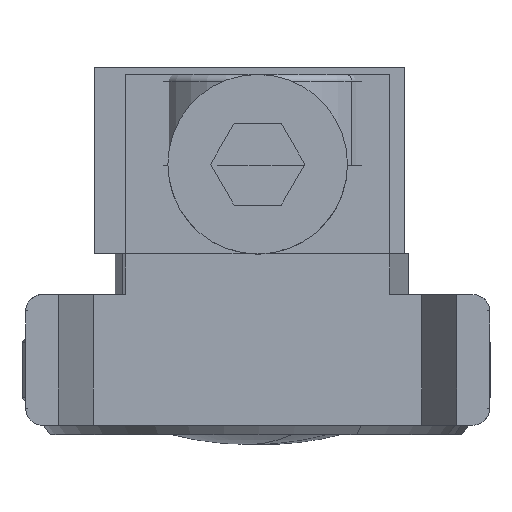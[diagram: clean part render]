
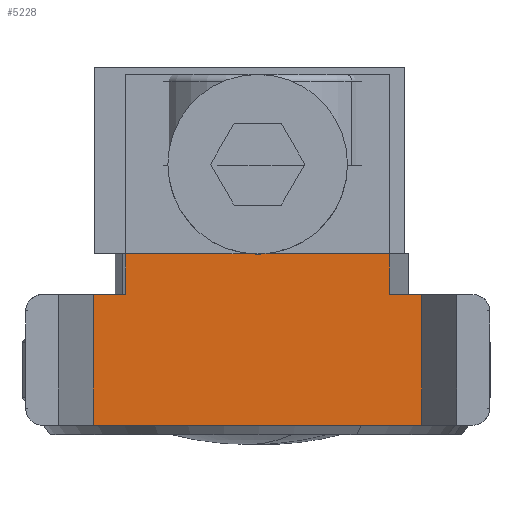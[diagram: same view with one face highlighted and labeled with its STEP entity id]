
A CAD part, left-side view. The second image highlights one B-rep face of the part: STEP entity #5228.
In plain terms, the highlighted planar face has unit normal (-1, 0, 0).
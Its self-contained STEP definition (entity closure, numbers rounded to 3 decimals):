
#82 = LINE ( 'NONE', #271, #4875 ) ;
#83 = ORIENTED_EDGE ( 'NONE', *, *, #3269, .T. ) ;
#155 = ORIENTED_EDGE ( 'NONE', *, *, #4602, .T. ) ;
#184 = LINE ( 'NONE', #2936, #1923 ) ;
#216 = CARTESIAN_POINT ( 'NONE',  ( 4., 0., -5.028 ) ) ;
#271 = CARTESIAN_POINT ( 'NONE',  ( 4., 0., 0. ) ) ;
#365 = LINE ( 'NONE', #1470, #3652 ) ;
#394 = EDGE_CURVE ( 'NONE', #2414, #2773, #82, .T. ) ;
#429 = VECTOR ( 'NONE', #3937, 1000. ) ;
#444 = DIRECTION ( 'NONE',  ( 0., -1., 0. ) ) ;
#486 = CARTESIAN_POINT ( 'NONE',  ( 4., 0., -4.04 ) ) ;
#488 = AXIS2_PLACEMENT_3D ( 'NONE', #2932, #1514, #3379 ) ;
#512 = DIRECTION ( 'NONE',  ( 0., -1., 0. ) ) ;
#560 = DIRECTION ( 'NONE',  ( 0., 0., -1. ) ) ;
#561 = FACE_OUTER_BOUND ( 'NONE', #5532, .T. ) ;
#630 = CARTESIAN_POINT ( 'NONE',  ( 4., -4., -5.028 ) ) ;
#805 = DIRECTION ( 'NONE',  ( 0., 0., 1. ) ) ;
#1002 = ORIENTED_EDGE ( 'NONE', *, *, #3974, .T. ) ;
#1011 = LINE ( 'NONE', #1920, #1760 ) ;
#1127 = CARTESIAN_POINT ( 'NONE',  ( 4., 1.25, -5.028 ) ) ;
#1224 = EDGE_CURVE ( 'NONE', #5826, #6021, #365, .T. ) ;
#1255 = VERTEX_POINT ( 'NONE', #5229 ) ;
#1470 = CARTESIAN_POINT ( 'NONE',  ( 4., 0., 4.04 ) ) ;
#1485 = LINE ( 'NONE', #630, #429 ) ;
#1514 = DIRECTION ( 'NONE',  ( -1., 0., 0. ) ) ;
#1547 = CARTESIAN_POINT ( 'NONE',  ( 4., 1.25, 4.04 ) ) ;
#1624 = VECTOR ( 'NONE', #1927, 1000. ) ;
#1760 = VECTOR ( 'NONE', #512, 1000. ) ;
#1831 = VERTEX_POINT ( 'NONE', #2266 ) ;
#1884 = CARTESIAN_POINT ( 'NONE',  ( 4., 1.25, -5.028 ) ) ;
#1915 = DIRECTION ( 'NONE',  ( 0., -1., 0. ) ) ;
#1920 = CARTESIAN_POINT ( 'NONE',  ( 4., -4., 5.028 ) ) ;
#1923 = VECTOR ( 'NONE', #560, 1000. ) ;
#1927 = DIRECTION ( 'NONE',  ( 0., 0., -1. ) ) ;
#1971 = ORIENTED_EDGE ( 'NONE', *, *, #1224, .F. ) ;
#2112 = EDGE_CURVE ( 'NONE', #2414, #5978, #1485, .T. ) ;
#2266 = CARTESIAN_POINT ( 'NONE',  ( 4., 1.25, -0.234 ) ) ;
#2414 = VERTEX_POINT ( 'NONE', #216 ) ;
#2500 = VECTOR ( 'NONE', #444, 1000. ) ;
#2624 = EDGE_CURVE ( 'NONE', #1831, #3310, #5941, .T. ) ;
#2715 = CARTESIAN_POINT ( 'NONE',  ( 4., -4., 0. ) ) ;
#2773 = VERTEX_POINT ( 'NONE', #5293 ) ;
#2932 = CARTESIAN_POINT ( 'NONE',  ( 4., -4., -5.028 ) ) ;
#2936 = CARTESIAN_POINT ( 'NONE',  ( 4., 0., -5.028 ) ) ;
#3053 = VECTOR ( 'NONE', #6038, 1000. ) ;
#3090 = ORIENTED_EDGE ( 'NONE', *, *, #2624, .F. ) ;
#3269 = EDGE_CURVE ( 'NONE', #1831, #1255, #3705, .T. ) ;
#3310 = VERTEX_POINT ( 'NONE', #5263 ) ;
#3373 = ORIENTED_EDGE ( 'NONE', *, *, #3698, .T. ) ;
#3379 = DIRECTION ( 'NONE',  ( 0., 0., 1. ) ) ;
#3459 = PLANE ( 'NONE',  #488 ) ;
#3633 = LINE ( 'NONE', #1127, #4606 ) ;
#3652 = VECTOR ( 'NONE', #1915, 1000. ) ;
#3698 = EDGE_CURVE ( 'NONE', #5104, #6021, #184, .T. ) ;
#3705 = LINE ( 'NONE', #1884, #1624 ) ;
#3731 = ORIENTED_EDGE ( 'NONE', *, *, #5176, .F. ) ;
#3937 = DIRECTION ( 'NONE',  ( 0., -1., 0. ) ) ;
#3974 = EDGE_CURVE ( 'NONE', #5978, #5342, #4840, .T. ) ;
#4186 = AXIS2_PLACEMENT_3D ( 'NONE', #5647, #4258, #4741 ) ;
#4258 = DIRECTION ( 'NONE',  ( -1., 0., 0. ) ) ;
#4465 = ORIENTED_EDGE ( 'NONE', *, *, #5134, .T. ) ;
#4576 = CARTESIAN_POINT ( 'NONE',  ( 4., 0., 4.04 ) ) ;
#4602 = EDGE_CURVE ( 'NONE', #5826, #3310, #3633, .T. ) ;
#4606 = VECTOR ( 'NONE', #4966, 1000. ) ;
#4741 = DIRECTION ( 'NONE',  ( 0., 0., 1. ) ) ;
#4840 = LINE ( 'NONE', #2715, #3053 ) ;
#4872 = ORIENTED_EDGE ( 'NONE', *, *, #2112, .T. ) ;
#4875 = VECTOR ( 'NONE', #805, 1000. ) ;
#4966 = DIRECTION ( 'NONE',  ( 0., 0., -1. ) ) ;
#5104 = VERTEX_POINT ( 'NONE', #5711 ) ;
#5108 = LINE ( 'NONE', #486, #2500 ) ;
#5134 = EDGE_CURVE ( 'NONE', #1255, #2773, #5108, .T. ) ;
#5176 = EDGE_CURVE ( 'NONE', #5104, #5342, #1011, .T. ) ;
#5228 = ADVANCED_FACE ( 'NONE', ( #561 ), #3459, .T. ) ;
#5229 = CARTESIAN_POINT ( 'NONE',  ( 4., 1.25, -4.04 ) ) ;
#5263 = CARTESIAN_POINT ( 'NONE',  ( 4., 1.25, 0.234 ) ) ;
#5293 = CARTESIAN_POINT ( 'NONE',  ( 4., 0., -4.04 ) ) ;
#5342 = VERTEX_POINT ( 'NONE', #5897 ) ;
#5487 = ORIENTED_EDGE ( 'NONE', *, *, #394, .F. ) ;
#5493 = CARTESIAN_POINT ( 'NONE',  ( 4., -4., -5.028 ) ) ;
#5532 = EDGE_LOOP ( 'NONE', ( #3373, #1971, #155, #3090, #83, #4465, #5487, #4872, #1002, #3731 ) ) ;
#5647 = CARTESIAN_POINT ( 'NONE',  ( 4., 3.99, 0. ) ) ;
#5711 = CARTESIAN_POINT ( 'NONE',  ( 4., 0., 5.028 ) ) ;
#5826 = VERTEX_POINT ( 'NONE', #1547 ) ;
#5897 = CARTESIAN_POINT ( 'NONE',  ( 4., -4., 5.028 ) ) ;
#5941 = CIRCLE ( 'NONE', #4186, 2.75 ) ;
#5978 = VERTEX_POINT ( 'NONE', #5493 ) ;
#6021 = VERTEX_POINT ( 'NONE', #4576 ) ;
#6038 = DIRECTION ( 'NONE',  ( 0., 0., 1. ) ) ;
